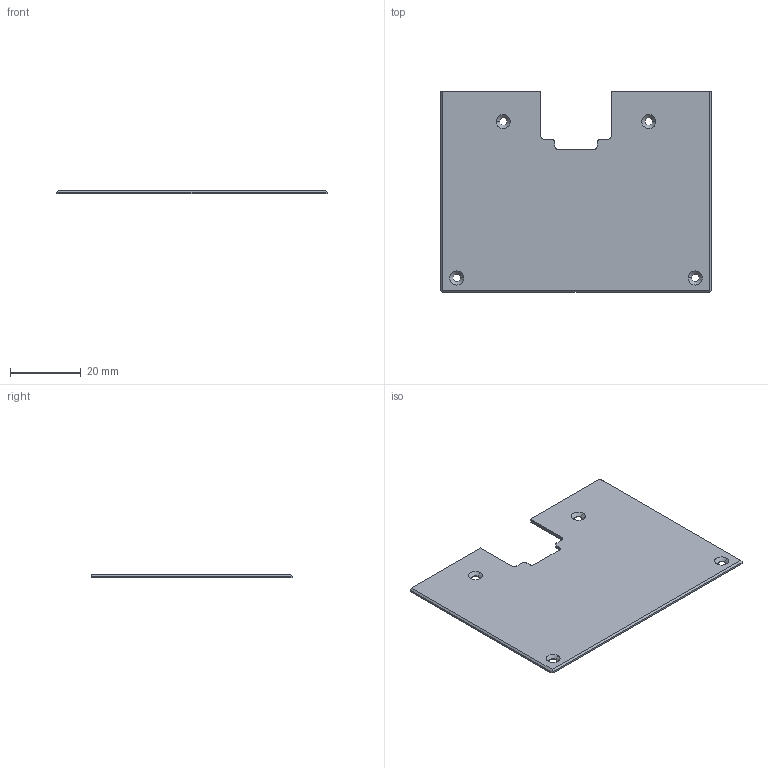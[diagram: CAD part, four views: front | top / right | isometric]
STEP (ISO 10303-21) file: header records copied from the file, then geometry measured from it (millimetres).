
FILE_DESCRIPTION (( 'STEP AP214' ), '1' );
FILE_NAME ('电池壳遮挡板4.STEP', '2026-09-29T01:14:44', ( '微软用户' ), ( '微软中国' ), 'SwSTEP 2.0', 'SolidWorks 2016', '' );
FILE_SCHEMA (( 'AUTOMOTIVE_DESIGN' ));
Length unit declared in the file: millimetre
Products named in the file (1): 萇喀褲殑結啣4
Bounding box: 76.6 x 56.9 x 1 mm (x, y, z)
Volume: 3999.7 mm3; surface area: 8333.3 mm2
Topology: 1 solids, 1 shells, 41 faces, 109 edges, 70 vertices
Faces by surface type: plane 19, cylinder 14, cone 8
Entity records: 1325 total; most frequent: DIRECTION 229, CARTESIAN_POINT 221, ORIENTED_EDGE 218, EDGE_CURVE 109, AXIS2_PLACEMENT_3D 78, VECTOR 73, LINE 73, VERTEX_POINT 70
